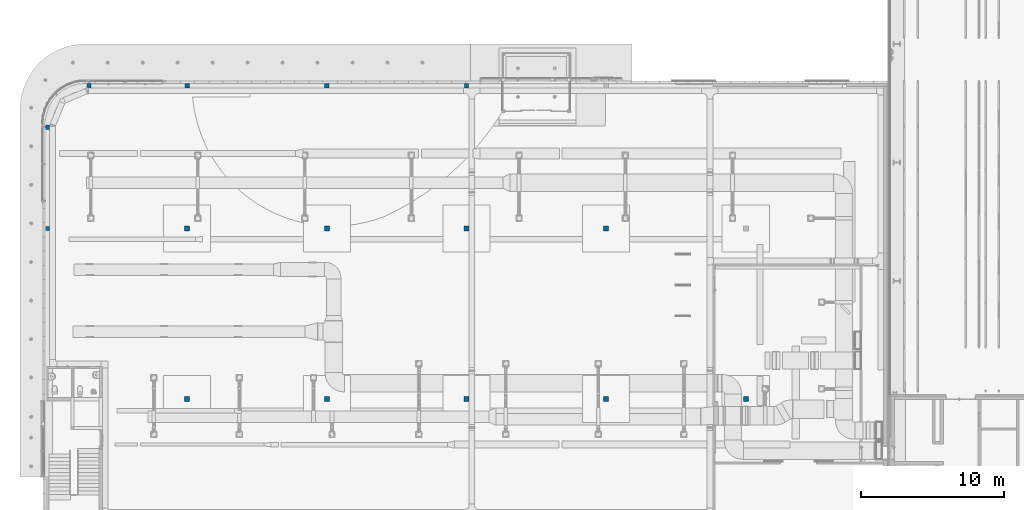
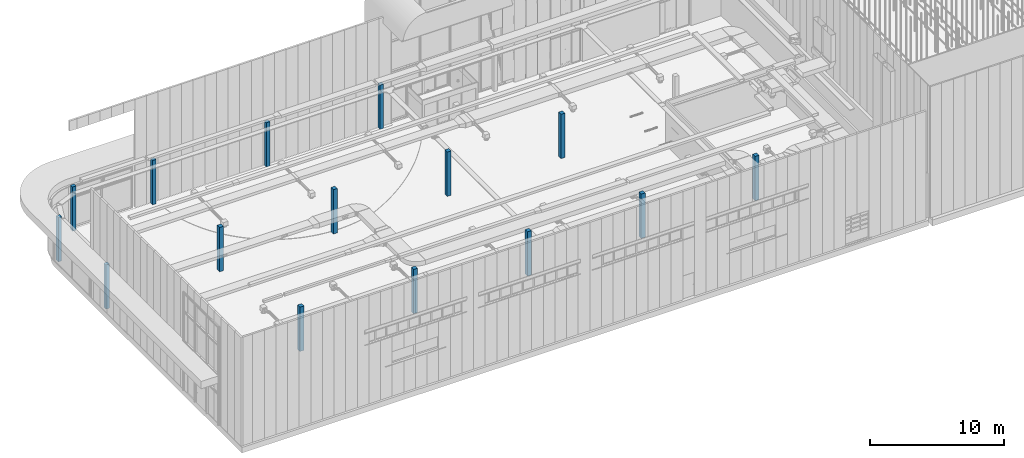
# One storey, part 3 of 302: 15 columns.
"""IFC2X3 building model written with IfcOpenShell, lengths in metres."""

from ifc_helpers import new_model, entity, si_unit, converted_unit, derived_unit, direction, frame, origin, origin_2d_with_axis, place, context, subcontext, project, spatial, rectangle, extrude, source, transform, mapped, material, type_object, type_shapes, element, save


model = new_model("IFC2X3")

# Units and contexts
model_context = context("Model", 3, precision=1e-05, world=origin(), true_north=direction((6.12303176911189e-17, 1.0)))
body_context = subcontext(model_context, "Body", "Model", "MODEL_VIEW")
ifc_project = project(units=[si_unit("LENGTHUNIT", "METRE"), si_unit("AREAUNIT", "SQUARE_METRE"), si_unit("VOLUMEUNIT", "CUBIC_METRE"), converted_unit("PLANEANGLEUNIT", "DEGREE", entity("IfcRatioMeasure", 0.0174532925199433), si_unit("PLANEANGLEUNIT", "RADIAN"), dimensions=[0, 0, 0, 0, 0, 0, 0]), si_unit("MASSUNIT", "GRAM", prefix="KILO"), derived_unit("MASSDENSITYUNIT", [(si_unit("MASSUNIT", "GRAM", prefix="KILO"), 1), (si_unit("LENGTHUNIT", "METRE"), -3)]), derived_unit("MOMENTOFINERTIAUNIT", [(si_unit("LENGTHUNIT", "METRE"), 4)]), si_unit("TIMEUNIT", "SECOND"), si_unit("FREQUENCYUNIT", "HERTZ"), si_unit("THERMODYNAMICTEMPERATUREUNIT", "DEGREE_CELSIUS"), derived_unit("THERMALTRANSMITTANCEUNIT", [(si_unit("MASSUNIT", "GRAM", prefix="KILO"), 1), (si_unit("THERMODYNAMICTEMPERATUREUNIT", "KELVIN"), -1), (si_unit("TIMEUNIT", "SECOND"), -3)]), derived_unit("VOLUMETRICFLOWRATEUNIT", [(si_unit("LENGTHUNIT", "METRE"), 3), (si_unit("TIMEUNIT", "SECOND"), -1)]), si_unit("ELECTRICCURRENTUNIT", "AMPERE"), si_unit("ELECTRICVOLTAGEUNIT", "VOLT"), si_unit("POWERUNIT", "WATT"), si_unit("FORCEUNIT", "NEWTON", prefix="KILO"), si_unit("ILLUMINANCEUNIT", "LUX"), si_unit("LUMINOUSFLUXUNIT", "LUMEN"), si_unit("LUMINOUSINTENSITYUNIT", "CANDELA"), derived_unit("USERDEFINED", [(si_unit("MASSUNIT", "GRAM", prefix="KILO"), -1), (si_unit("LENGTHUNIT", "METRE"), -2), (si_unit("TIMEUNIT", "SECOND"), 3), (si_unit("LUMINOUSFLUXUNIT", "LUMEN"), 1)]), derived_unit("LINEARVELOCITYUNIT", [(si_unit("LENGTHUNIT", "METRE"), 1), (si_unit("TIMEUNIT", "SECOND"), -1)]), si_unit("PRESSUREUNIT", "PASCAL"), derived_unit("USERDEFINED", [(si_unit("LENGTHUNIT", "METRE"), -2), (si_unit("MASSUNIT", "GRAM", prefix="KILO"), 1), (si_unit("TIMEUNIT", "SECOND"), -2)]), derived_unit("LINEARFORCEUNIT", [(si_unit("MASSUNIT", "GRAM", prefix="KILO"), 1), (si_unit("LENGTHUNIT", "METRE"), 1), (si_unit("TIMEUNIT", "SECOND"), -2), (si_unit("LENGTHUNIT", "METRE"), -1)]), derived_unit("PLANARFORCEUNIT", [(si_unit("MASSUNIT", "GRAM", prefix="KILO"), 1), (si_unit("LENGTHUNIT", "METRE"), 1), (si_unit("TIMEUNIT", "SECOND"), -2), (si_unit("LENGTHUNIT", "METRE"), -2)])], contexts=[model_context])

# Site, building, storey
site_placement = place(None, origin())
site = spatial("IfcSite", under=ifc_project, at=site_placement, Name="Default", CompositionType="ELEMENT")
building_placement = place(site_placement, origin())
building = spatial("IfcBuilding", under=site, at=building_placement, CompositionType="ELEMENT")
storey_placement = place(building_placement, frame((0.0, 0.0, -1.3)))
storey = spatial("IfcBuildingStorey", under=building, at=storey_placement, Name="00_EG", CompositionType="ELEMENT", Elevation=-1.3)

# Columns
ifc_material = material(Name="Ortbeton -Stütze")
column_type_1 = type_object("IfcColumnType", Name="STB Stütze - rechteckig:Stütze 350 x 350", PredefinedType="COLUMN", material=ifc_material)
shared_shape_1 = source(origin(), body_context, "Body", "SweptSolid", [
    extrude(rectangle(XDim=0.35, YDim=0.35, at=origin_2d_with_axis()), frame((0.0, 0.0, -0.0300000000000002), z_axis=(0.0, 0.0, 1.0), x_axis=(0.0, -1.0, 0.0)), (0.0, 0.0, 1.0), 4.03),
])
type_shapes(column_type_1, [shared_shape_1])
for number, where in (
    (1, (-227.360111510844, 35.4080889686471, 1.3)),
    (2, (-237.147611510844, 35.4080889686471, 1.3)),
    (3, (-246.935111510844, 35.4080889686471, 1.3)),
    (4, (-256.722611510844, 35.4080889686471, 1.3)),
    (5, (-217.572611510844, 23.448088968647, 1.3)),
    (6, (-227.360111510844, 23.448088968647, 1.3)),
    (7, (-237.147611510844, 23.4480889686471, 1.3)),
    (8, (-246.935111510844, 23.4480889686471, 1.3)),
    (9, (-256.722611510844, 23.4480889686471, 1.3)),
):
    element("IfcColumn", number, at=place(storey_placement, frame(where)), inside=storey, type_object=column_type_1, material=ifc_material, Name="STB Stütze - rechteckig:Stütze 350 x 350", ObjectType="STB Stütze - rechteckig:Stütze 350 x 350", context=body_context, shape_type="MappedRepresentation", body=[
        mapped(shared_shape_1, transform((0.0, 0.0, 0.0), scale=1.0)),
    ])
column_type_2 = type_object("IfcColumnType", Name="STB Stütze - rechteckig:Stütze 300 x 300", PredefinedType="COLUMN", material=ifc_material)
shared_shape_2 = source(origin(), body_context, "Body", "SweptSolid", [
    extrude(rectangle(XDim=0.3, YDim=0.3, at=origin_2d_with_axis()), frame((0.0, 0.0, -0.0300000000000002), z_axis=(0.0, 0.0, 1.0), x_axis=(0.0, -1.0, 0.0)), (0.0, 0.0, 1.0), 4.03),
])
type_shapes(column_type_2, [shared_shape_2])
for number, where in (
    (10, (-256.722611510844, 45.4080889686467, 1.3)),
    (11, (-246.935111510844, 45.4080889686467, 1.3)),
    (12, (-237.147611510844, 45.4080889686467, 1.3)),
    (13, (-263.606113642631, 45.4080889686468, 1.3)),
    (14, (-266.510111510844, 35.4080889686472, 1.3)),
    (15, (-266.510111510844, 42.5040911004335, 1.3)),
):
    element("IfcColumn", number, at=place(storey_placement, frame(where)), inside=storey, type_object=column_type_2, material=ifc_material, Name="STB Stütze - rechteckig:Stütze 300 x 300", ObjectType="STB Stütze - rechteckig:Stütze 300 x 300", context=body_context, shape_type="MappedRepresentation", body=[
        mapped(shared_shape_2, transform((0.0, 0.0, 0.0), scale=1.0)),
    ])

save(model, "model.ifc")
